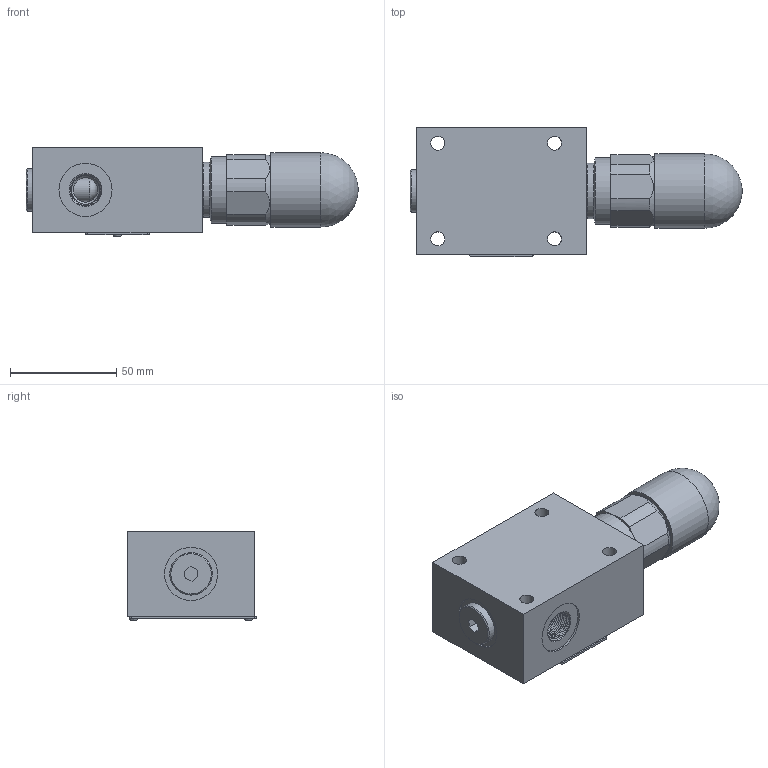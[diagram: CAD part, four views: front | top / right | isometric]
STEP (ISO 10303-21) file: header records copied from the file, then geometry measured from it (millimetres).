
FILE_DESCRIPTION(/* description */ (''),/* implementation_level */ '2;1');
FILE_NAME(/* name */ 'DBDS6G-1XJ直动型管式溢流阀.prt.stp',/* time_stamp */ '2022-03-30T20:14:12+08:00',/* author */ (''),/* organization */ (''),/* preprocessor_version */ 'ST-DEVELOPER v16.7',/* originating_system */ 'SIEMENS PLM Software NX 12.0',/* authorisation */ '');
FILE_SCHEMA (('AUTOMOTIVE_DESIGN { 1 0 10303 214 3 1 1 1 }'));
Products named in the file (1): DBDS6G-1XJ直动型管式溢流阀
Bounding box: 156.22 x 60.9 x 42 mm (x, y, z)
Volume: 86160.6 mm3; surface area: 73732.3 mm2
Topology: 22 solids, 24 shells, 560 faces, 1382 edges, 873 vertices
Faces by surface type: plane 274, cylinder 158, cone 57, bspline 39, torus 29, sphere 3
Full cylindrical faces by diameter (mm): 1 x2, 1.8 x4, 1.9 x2, 2 x2, 2.5 x1, 3 x4, 3.1 x2, 3.3 x1, 4.4 x2, 4.7 x2, 4.709 x1, 5.1 x4, 5.2 x28, 5.209 x1, 5.5 x1, 6 x1, 6.6 x4, 6.8 x1, 7.8 x2, 10 x1, 11 x3, 11.5 x2, 13.5 x2, 15 x3, 16 x1, 16.5 x1, 17.28 x1, 19.7 x1, 20 x2, 20.3 x1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
Entity records: 43408 total; most frequent: CARTESIAN_POINT 32708, DIRECTION 2027, ORIENTED_EDGE 1954, EDGE_CURVE 977, AXIS2_PLACEMENT_3D 846, EDGE_LOOP 758, VERTEX_POINT 697, ADVANCED_FACE 522
